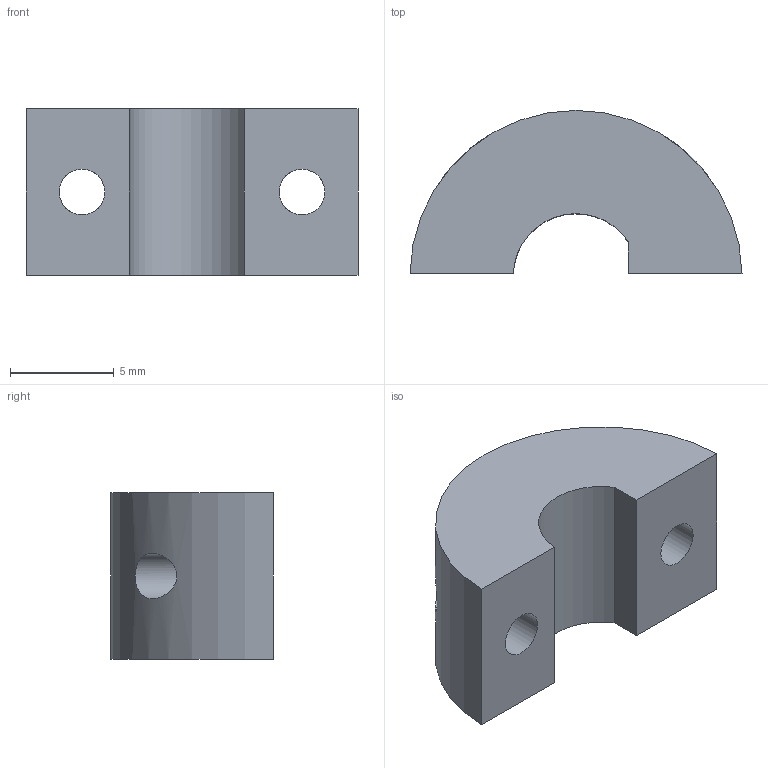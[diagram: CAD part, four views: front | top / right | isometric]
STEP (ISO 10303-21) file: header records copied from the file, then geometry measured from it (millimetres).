
FILE_DESCRIPTION(('Open CASCADE Model'),'2;1');
FILE_NAME('Open CASCADE Shape Model','2026-09-24T08:21:24',('Author'),( 'Open CASCADE'),'Open CASCADE STEP processor 7.8','Open CASCADE 7.8' ,'Unknown');
FILE_SCHEMA(('AUTOMOTIVE_DESIGN { 1 0 10303 214 1 1 1 1 }'));
Length unit declared in the file: millimetre
Products named in the file (1): Open CASCADE STEP translator 7.8 3
Bounding box: 16 x 7.85 x 8 mm (x, y, z)
Volume: 637.2 mm3; surface area: 587 mm2
Topology: 1 solids, 1 shells, 9 faces, 21 edges, 14 vertices
Faces by surface type: plane 5, cylinder 4
Full cylindrical faces by diameter (mm): 2.2 x2
Entity records: 1169 total; most frequent: CARTESIAN_POINT 760, DIRECTION 61, ORIENTED_EDGE 42, PCURVE 42, DEFINITIONAL_REPRESENTATION 42, B_SPLINE_CURVE_WITH_KNOTS 28, LINE 23, VECTOR 23
